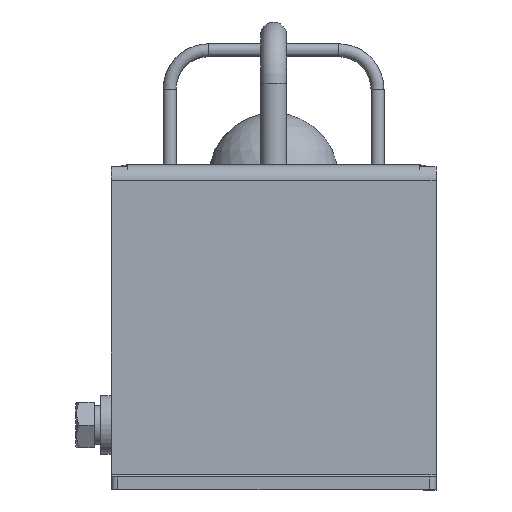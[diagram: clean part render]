
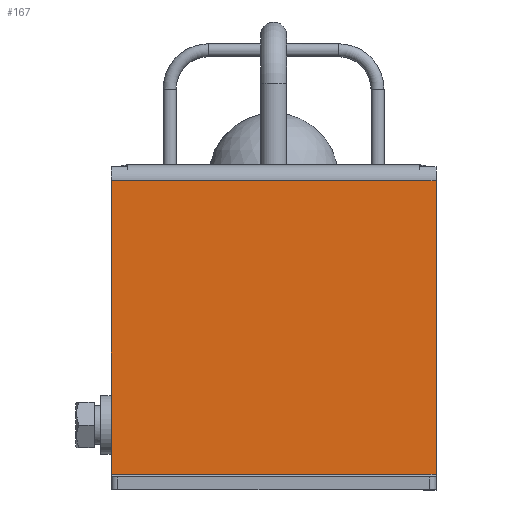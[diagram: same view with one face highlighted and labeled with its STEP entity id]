
A CAD part, left-side view. The second image highlights one B-rep face of the part: STEP entity #167.
In plain terms, the highlighted planar face has unit normal (-1, 0, 0).
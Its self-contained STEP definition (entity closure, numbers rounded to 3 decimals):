
#167=ADVANCED_FACE('',(#2983),#2985,.F.);
#2983=FACE_OUTER_BOUND('',#2984,.T.);
#2984=EDGE_LOOP('',(#6169,#6170,#6171,#6172));
#2985=PLANE('',#2986);
#2986=AXIS2_PLACEMENT_3D('',#2987,#2988,#2989);
#2987=CARTESIAN_POINT('',(-65.5,0.,52.988));
#2988=DIRECTION('',(1.,0.,0.));
#2989=DIRECTION('',(0.,0.,1.));
#6169=ORIENTED_EDGE('',*,*,#8765,.T.);
#6170=ORIENTED_EDGE('',*,*,#8766,.F.);
#6171=ORIENTED_EDGE('',*,*,#8669,.T.);
#6172=ORIENTED_EDGE('',*,*,#8767,.F.);
#8669=EDGE_CURVE('',#9478,#9479,#9480,.T.);
#8765=EDGE_CURVE('',#9644,#9645,#9646,.T.);
#8766=EDGE_CURVE('',#9478,#9645,#9647,.T.);
#8767=EDGE_CURVE('',#9644,#9479,#9648,.T.);
#9478=VERTEX_POINT('',#11119);
#9479=VERTEX_POINT('',#11120);
#9480=LINE('',#11121,#11122);
#9644=VERTEX_POINT('',#11525);
#9645=VERTEX_POINT('',#11526);
#9646=LINE('',#11527,#11528);
#9647=LINE('',#11530,#11531);
#9648=LINE('',#11533,#11534);
#11119=CARTESIAN_POINT('',(-65.5,-25.,-0.996));
#11120=CARTESIAN_POINT('',(-65.5,25.,-0.996));
#11121=CARTESIAN_POINT('',(-65.5,-25.,-0.996));
#11122=VECTOR('',#11123,1.);
#11123=DIRECTION('',(0.,1.,0.));
#11525=CARTESIAN_POINT('',(-65.5,25.,-46.196));
#11526=CARTESIAN_POINT('',(-65.5,-25.,-46.196));
#11527=CARTESIAN_POINT('',(-65.5,25.,-46.196));
#11528=VECTOR('',#11529,1.);
#11529=DIRECTION('',(0.,-1.,0.));
#11530=CARTESIAN_POINT('',(-65.5,-25.,-0.996));
#11531=VECTOR('',#11532,1.);
#11532=DIRECTION('',(0.,0.,-1.));
#11533=CARTESIAN_POINT('',(-65.5,25.,-46.196));
#11534=VECTOR('',#11535,1.);
#11535=DIRECTION('',(0.,0.,1.));
